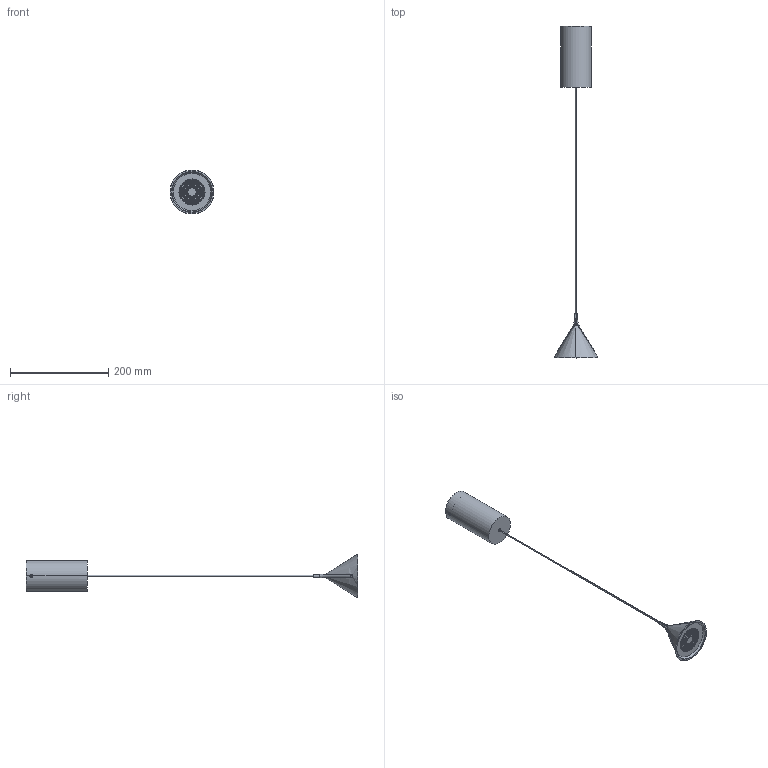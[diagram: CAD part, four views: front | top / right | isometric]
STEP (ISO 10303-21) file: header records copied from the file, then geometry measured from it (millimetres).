
FILE_DESCRIPTION (( 'STEP AP203' ), '1' );
FILE_NAME ('JEWEL MONO CE.STEP', '2021-03-24T14:19:04', ( '' ), ( '' ), 'SwSTEP 2.0', 'SolidWorks 2019', '' );
FILE_SCHEMA (( 'CONFIG_CONTROL_DESIGN' ));
Length unit declared in the file: millimetre
Products named in the file (12): WSR1TLL01CRCEW38L2; WSCEC0000000000007; WSCM2A0067-0700-00; WSCM2A0052-0727-00___; serrated lock washer 1_din_MC-R001-XX-FE-00-; VIRTUS-SP-1-02_Default<___>; COLOSIO BK20N^WSASS-000000019-27; Monoarchetto_0.3; Diffusore; ASSIEME HOLDER+LENTE LEDLINK; JEWEL MONO CE; WSASS-000000019-27
Assembly tree (12 placements, depth 4):
  JEWEL MONO CE
    Diffusore
      WSCM2A0067-0700-00
      Monoarchetto_0.3
      ASSIEME HOLDER+LENTE LEDLINK
        WSR1TLL01CRCEW38L2
    WSASS-000000019-27
      WSCM2A0052-0727-00___
      VIRTUS-SP-1-02_Default<___>
      WSCEC0000000000007
      serrated lock washer 1_din_MC-R001-XX-FE-00-  x2
      COLOSIO BK20N^WSASS-000000019-27
Bounding box: 89.79 x 677.36 x 89.79 mm (x, y, z)
Volume: 190176.6 mm3; surface area: 97954.1 mm2
Topology: 11 solids, 11 shells, 893 faces, 2292 edges, 1381 vertices
Faces by surface type: cylinder 466, bspline 167, plane 150, cone 76, torus 28, sphere 6
Entity records: 43307 total; most frequent: CARTESIAN_POINT 23690, ORIENTED_EDGE 4212, DIRECTION 3251, EDGE_CURVE 2106, AXIS2_PLACEMENT_3D 1380, VERTEX_POINT 1293, B_SPLINE_CURVE_WITH_KNOTS 950, EDGE_LOOP 927
